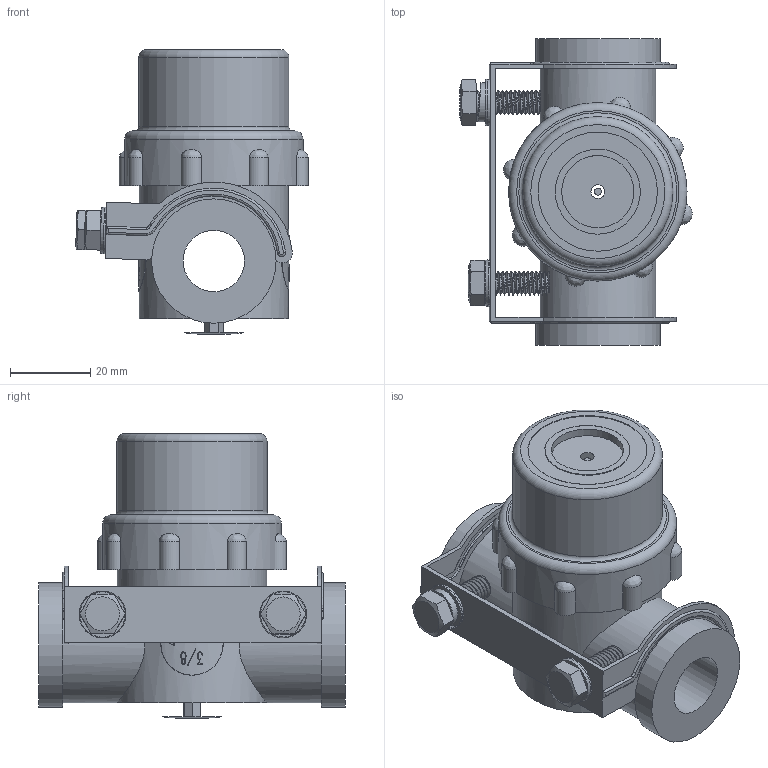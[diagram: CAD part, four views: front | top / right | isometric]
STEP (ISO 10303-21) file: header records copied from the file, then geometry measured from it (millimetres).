
FILE_DESCRIPTION(/* description */ ('FILTRO x VUOTO'),/* implementation_level */ '2;1');
FILE_NAME(/* name */ 'C:\PNX_VAULTFOLDER\Area Tecnica\Disegni\VARIE-3D\Componenti\1900 (vuoto)\19F38_V_00.stp',/* time_stamp */ '2019-09-13T15:00:29+02:00',/* author */ ('maniean1'),/* organization */ (''),/* preprocessor_version */ 'ST-DEVELOPER v17',/* originating_system */ 'Autodesk Inventor 2019',/* authorisation */ '');
FILE_SCHEMA (('AUTOMOTIVE_DESIGN { 1 0 10303 214 3 1 1 }'));
Length unit declared in the file: millimetre
Products named in the file (1): 19F38.V.00
Bounding box: 57.91 x 76.4 x 71 mm (x, y, z)
Surface area: 24751.4 mm2 (no closed solid volume)
Topology: 0 solids, 10 shells, 391 faces, 1472 edges, 1041 vertices
Faces by surface type: bspline 156, cylinder 113, plane 87, torus 28, cone 7
Full cylindrical faces by diameter (mm): 6 x30, 6.5 x2, 8.9 x1, 11.7 x2, 15.3 x2, 18 x1, 21.2 x1, 28.8 x2, 29.7 x1, 31 x2, 37.15 x1, 37.4 x1, 44.45 x1
Entity records: 45903 total; most frequent: CARTESIAN_POINT 34722, ORIENTED_EDGE 2408, DIRECTION 1908, EDGE_CURVE 1472, VERTEX_POINT 1041, AXIS2_PLACEMENT_3D 683, LINE 542, VECTOR 542
